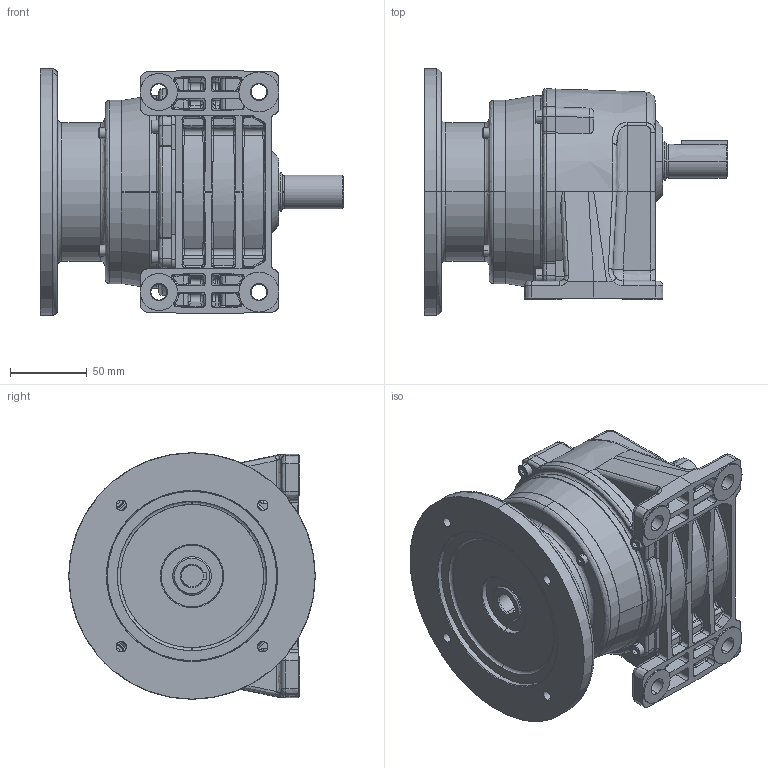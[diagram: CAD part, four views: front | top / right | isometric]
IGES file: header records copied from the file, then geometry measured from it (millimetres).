
Start section: SolidWorks IGES file using analytic representation for surfaces
Bounding box: 197 x 160 x 160 mm (x, y, z)
Surface area: 202641.9 mm2 (no closed solid volume)
Topology: 0 solids, 0 shells, 856 faces, 10082 edges, 10061 vertices
Faces by surface type: bspline 477, revolution 379
